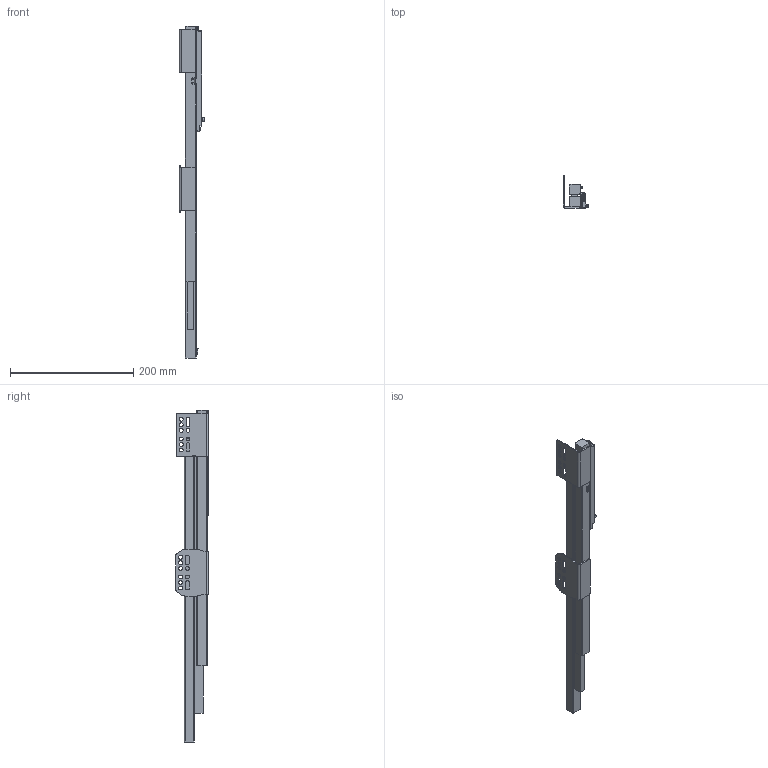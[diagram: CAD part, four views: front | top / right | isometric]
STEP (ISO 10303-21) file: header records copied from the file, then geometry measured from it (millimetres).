
FILE_DESCRIPTION (( 'STEP AP203' ), '1' );
FILE_NAME ('HB015504GX-L(闭合).STEP', '2025-05-13T07:25:40', ( '微软用户' ), ( '微软中国' ), 'SwSTEP 2.0', 'SolidWorks 2021', '' );
FILE_SCHEMA (( 'CONFIG_CONTROL_DESIGN' ));
Products named in the file (1): HB015504GX-L(敕磁)
Bounding box: 40.83 x 53 x 538.9 mm (x, y, z)
Volume: 335639.1 mm3; surface area: 87132.9 mm2
Topology: 3 solids, 30 shells, 1459 faces, 3846 edges, 2431 vertices
Faces by surface type: plane 496, cylinder 485, bspline 268, torus 158, cone 44, sphere 8
Entity records: 82507 total; most frequent: CARTESIAN_POINT 48497, ORIENTED_EDGE 7628, DIRECTION 6411, EDGE_CURVE 3814, VERTEX_POINT 2431, AXIS2_PLACEMENT_3D 2311, LINE 1789, VECTOR 1789
